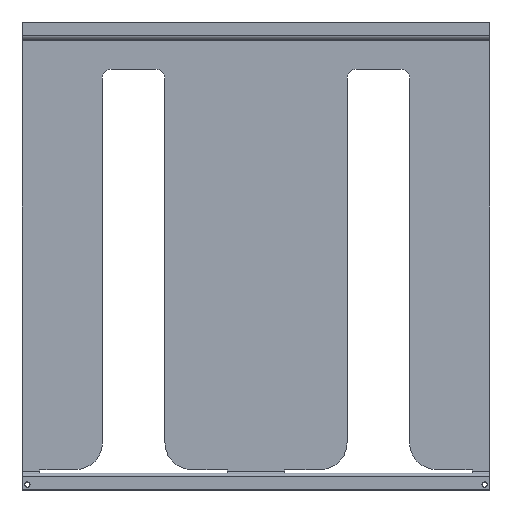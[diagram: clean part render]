
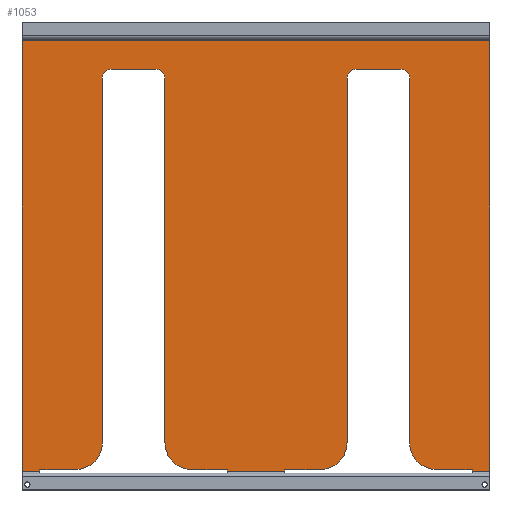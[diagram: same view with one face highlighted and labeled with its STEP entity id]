
A CAD part, top view. The second image highlights one B-rep face of the part: STEP entity #1053.
In plain terms, the highlighted planar face has unit normal (0, 0, 1).
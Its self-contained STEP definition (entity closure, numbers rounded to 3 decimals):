
#50=CIRCLE('',#1127,15.);
#51=CIRCLE('',#1128,15.);
#52=CIRCLE('',#1129,5.);
#53=CIRCLE('',#1130,5.);
#54=CIRCLE('',#1131,15.);
#55=CIRCLE('',#1132,15.);
#56=CIRCLE('',#1133,5.);
#57=CIRCLE('',#1134,5.);
#114=ORIENTED_EDGE('',*,*,#434,.T.);
#115=ORIENTED_EDGE('',*,*,#435,.T.);
#116=ORIENTED_EDGE('',*,*,#436,.T.);
#117=ORIENTED_EDGE('',*,*,#437,.T.);
#118=ORIENTED_EDGE('',*,*,#438,.F.);
#119=ORIENTED_EDGE('',*,*,#439,.F.);
#120=ORIENTED_EDGE('',*,*,#440,.F.);
#121=ORIENTED_EDGE('',*,*,#441,.F.);
#122=ORIENTED_EDGE('',*,*,#442,.F.);
#123=ORIENTED_EDGE('',*,*,#443,.T.);
#124=ORIENTED_EDGE('',*,*,#444,.T.);
#125=ORIENTED_EDGE('',*,*,#445,.T.);
#126=ORIENTED_EDGE('',*,*,#446,.T.);
#127=ORIENTED_EDGE('',*,*,#447,.T.);
#128=ORIENTED_EDGE('',*,*,#448,.T.);
#129=ORIENTED_EDGE('',*,*,#449,.T.);
#130=ORIENTED_EDGE('',*,*,#450,.T.);
#131=ORIENTED_EDGE('',*,*,#451,.T.);
#132=ORIENTED_EDGE('',*,*,#452,.T.);
#133=ORIENTED_EDGE('',*,*,#453,.T.);
#134=ORIENTED_EDGE('',*,*,#454,.F.);
#135=ORIENTED_EDGE('',*,*,#455,.T.);
#136=ORIENTED_EDGE('',*,*,#456,.T.);
#137=ORIENTED_EDGE('',*,*,#457,.T.);
#138=ORIENTED_EDGE('',*,*,#458,.T.);
#139=ORIENTED_EDGE('',*,*,#459,.T.);
#140=ORIENTED_EDGE('',*,*,#460,.T.);
#141=ORIENTED_EDGE('',*,*,#461,.T.);
#434=EDGE_CURVE('',#594,#595,#694,.T.);
#435=EDGE_CURVE('',#595,#596,#50,.F.);
#436=EDGE_CURVE('',#596,#597,#695,.T.);
#437=EDGE_CURVE('',#597,#598,#696,.T.);
#438=EDGE_CURVE('',#599,#598,#697,.T.);
#439=EDGE_CURVE('',#600,#599,#698,.T.);
#440=EDGE_CURVE('',#601,#600,#699,.T.);
#441=EDGE_CURVE('',#602,#601,#700,.T.);
#442=EDGE_CURVE('',#603,#602,#701,.F.);
#443=EDGE_CURVE('',#603,#604,#702,.T.);
#444=EDGE_CURVE('',#604,#605,#703,.T.);
#445=EDGE_CURVE('',#605,#606,#51,.F.);
#446=EDGE_CURVE('',#606,#607,#704,.T.);
#447=EDGE_CURVE('',#607,#608,#52,.T.);
#448=EDGE_CURVE('',#608,#609,#705,.T.);
#449=EDGE_CURVE('',#609,#610,#53,.T.);
#450=EDGE_CURVE('',#610,#611,#706,.T.);
#451=EDGE_CURVE('',#611,#612,#54,.F.);
#452=EDGE_CURVE('',#612,#613,#707,.T.);
#453=EDGE_CURVE('',#613,#614,#708,.T.);
#454=EDGE_CURVE('',#615,#614,#709,.F.);
#455=EDGE_CURVE('',#615,#616,#710,.T.);
#456=EDGE_CURVE('',#616,#617,#711,.T.);
#457=EDGE_CURVE('',#617,#618,#55,.F.);
#458=EDGE_CURVE('',#618,#619,#712,.T.);
#459=EDGE_CURVE('',#619,#620,#56,.T.);
#460=EDGE_CURVE('',#620,#621,#713,.T.);
#461=EDGE_CURVE('',#621,#594,#57,.T.);
#594=VERTEX_POINT('',#1583);
#595=VERTEX_POINT('',#1584);
#596=VERTEX_POINT('',#1586);
#597=VERTEX_POINT('',#1588);
#598=VERTEX_POINT('',#1590);
#599=VERTEX_POINT('',#1592);
#600=VERTEX_POINT('',#1594);
#601=VERTEX_POINT('',#1596);
#602=VERTEX_POINT('',#1598);
#603=VERTEX_POINT('',#1600);
#604=VERTEX_POINT('',#1602);
#605=VERTEX_POINT('',#1604);
#606=VERTEX_POINT('',#1606);
#607=VERTEX_POINT('',#1608);
#608=VERTEX_POINT('',#1610);
#609=VERTEX_POINT('',#1612);
#610=VERTEX_POINT('',#1614);
#611=VERTEX_POINT('',#1616);
#612=VERTEX_POINT('',#1618);
#613=VERTEX_POINT('',#1620);
#614=VERTEX_POINT('',#1622);
#615=VERTEX_POINT('',#1624);
#616=VERTEX_POINT('',#1626);
#617=VERTEX_POINT('',#1628);
#618=VERTEX_POINT('',#1630);
#619=VERTEX_POINT('',#1632);
#620=VERTEX_POINT('',#1634);
#621=VERTEX_POINT('',#1636);
#694=LINE('',#1582,#810);
#695=LINE('',#1587,#811);
#696=LINE('',#1589,#812);
#697=LINE('',#1591,#813);
#698=LINE('',#1593,#814);
#699=LINE('',#1595,#815);
#700=LINE('',#1597,#816);
#701=LINE('',#1599,#817);
#702=LINE('',#1601,#818);
#703=LINE('',#1603,#819);
#704=LINE('',#1607,#820);
#705=LINE('',#1611,#821);
#706=LINE('',#1615,#822);
#707=LINE('',#1619,#823);
#708=LINE('',#1621,#824);
#709=LINE('',#1623,#825);
#710=LINE('',#1625,#826);
#711=LINE('',#1627,#827);
#712=LINE('',#1631,#828);
#713=LINE('',#1635,#829);
#810=VECTOR('',#1255,1000.);
#811=VECTOR('',#1258,1000.);
#812=VECTOR('',#1259,1000.);
#813=VECTOR('',#1260,1000.);
#814=VECTOR('',#1261,1000.);
#815=VECTOR('',#1262,1000.);
#816=VECTOR('',#1263,1000.);
#817=VECTOR('',#1264,1000.);
#818=VECTOR('',#1265,1000.);
#819=VECTOR('',#1266,1000.);
#820=VECTOR('',#1269,1000.);
#821=VECTOR('',#1272,1000.);
#822=VECTOR('',#1275,1000.);
#823=VECTOR('',#1278,1000.);
#824=VECTOR('',#1279,1000.);
#825=VECTOR('',#1280,1000.);
#826=VECTOR('',#1281,1000.);
#827=VECTOR('',#1282,1000.);
#828=VECTOR('',#1285,1000.);
#829=VECTOR('',#1288,1000.);
#907=EDGE_LOOP('',(#114,#115,#116,#117,#118,#119,#120,#121,#122,#123,#124,
#125,#126,#127,#128,#129,#130,#131,#132,#133,#134,#135,#136,#137,#138,#139,
#140,#141));
#965=FACE_BOUND('',#907,.T.);
#1023=PLANE('',#1126);
#1053=ADVANCED_FACE('',(#965),#1023,.F.);
#1126=AXIS2_PLACEMENT_3D('',#1581,#1253,#1254);
#1127=AXIS2_PLACEMENT_3D('',#1585,#1256,#1257);
#1128=AXIS2_PLACEMENT_3D('',#1605,#1267,#1268);
#1129=AXIS2_PLACEMENT_3D('',#1609,#1270,#1271);
#1130=AXIS2_PLACEMENT_3D('',#1613,#1273,#1274);
#1131=AXIS2_PLACEMENT_3D('',#1617,#1276,#1277);
#1132=AXIS2_PLACEMENT_3D('',#1629,#1283,#1284);
#1133=AXIS2_PLACEMENT_3D('',#1633,#1286,#1287);
#1134=AXIS2_PLACEMENT_3D('',#1637,#1289,#1290);
#1253=DIRECTION('',(0.,0.,-1.));
#1254=DIRECTION('',(-1.,0.,0.));
#1255=DIRECTION('',(0.,-1.,0.));
#1256=DIRECTION('',(0.,0.,-1.));
#1257=DIRECTION('',(-1.,0.,0.));
#1258=DIRECTION('',(1.,0.,0.));
#1259=DIRECTION('',(0.,-1.,0.));
#1260=DIRECTION('',(-1.,0.,0.));
#1261=DIRECTION('',(0.,-1.,0.));
#1262=DIRECTION('',(1.,0.,0.));
#1263=DIRECTION('',(0.,1.,0.));
#1264=DIRECTION('',(1.,0.,0.));
#1265=DIRECTION('',(0.,1.,0.));
#1266=DIRECTION('',(1.,0.,0.));
#1267=DIRECTION('',(0.,0.,-1.));
#1268=DIRECTION('',(-1.,0.,0.));
#1269=DIRECTION('',(0.,1.,0.));
#1270=DIRECTION('',(0.,0.,-1.));
#1271=DIRECTION('',(-1.,0.,0.));
#1272=DIRECTION('',(1.,0.,0.));
#1273=DIRECTION('',(0.,0.,-1.));
#1274=DIRECTION('',(-1.,0.,0.));
#1275=DIRECTION('',(0.,-1.,0.));
#1276=DIRECTION('',(0.,0.,-1.));
#1277=DIRECTION('',(-1.,0.,0.));
#1278=DIRECTION('',(1.,0.,0.));
#1279=DIRECTION('',(0.,-1.,0.));
#1280=DIRECTION('',(1.,0.,0.));
#1281=DIRECTION('',(0.,1.,0.));
#1282=DIRECTION('',(1.,0.,0.));
#1283=DIRECTION('',(0.,0.,-1.));
#1284=DIRECTION('',(-1.,0.,0.));
#1285=DIRECTION('',(0.,1.,0.));
#1286=DIRECTION('',(0.,0.,-1.));
#1287=DIRECTION('',(-1.,0.,0.));
#1288=DIRECTION('',(1.,0.,0.));
#1289=DIRECTION('',(0.,0.,-1.));
#1290=DIRECTION('',(-1.,0.,0.));
#1581=CARTESIAN_POINT('',(0.,0.,1.));
#1582=CARTESIAN_POINT('',(86.,0.,1.));
#1583=CARTESIAN_POINT('',(86.,99.,1.));
#1584=CARTESIAN_POINT('',(86.,-105.,1.));
#1585=CARTESIAN_POINT('',(101.,-105.,1.));
#1586=CARTESIAN_POINT('',(101.,-120.,1.));
#1587=CARTESIAN_POINT('',(16.,-120.,1.));
#1588=CARTESIAN_POINT('',(121.,-120.,1.));
#1589=CARTESIAN_POINT('',(121.,-120.,1.));
#1590=CARTESIAN_POINT('',(121.,-121.,1.));
#1591=CARTESIAN_POINT('',(131.,-121.,1.));
#1592=CARTESIAN_POINT('',(131.,-121.,1.));
#1593=CARTESIAN_POINT('',(131.,121.,1.));
#1594=CARTESIAN_POINT('',(131.,120.,1.));
#1595=CARTESIAN_POINT('',(-131.,120.,1.));
#1596=CARTESIAN_POINT('',(-131.,120.,1.));
#1597=CARTESIAN_POINT('',(-131.,-121.,1.));
#1598=CARTESIAN_POINT('',(-131.,-121.,1.));
#1599=CARTESIAN_POINT('',(-131.,-121.,1.));
#1600=CARTESIAN_POINT('',(-121.,-121.,1.));
#1601=CARTESIAN_POINT('',(-121.,-136.182,1.));
#1602=CARTESIAN_POINT('',(-121.,-120.,1.));
#1603=CARTESIAN_POINT('',(-121.,-120.,1.));
#1604=CARTESIAN_POINT('',(-101.,-120.,1.));
#1605=CARTESIAN_POINT('',(-101.,-105.,1.));
#1606=CARTESIAN_POINT('',(-86.,-105.,1.));
#1607=CARTESIAN_POINT('',(-86.,0.,1.));
#1608=CARTESIAN_POINT('',(-86.,99.,1.));
#1609=CARTESIAN_POINT('',(-81.,99.,1.));
#1610=CARTESIAN_POINT('',(-81.,104.,1.));
#1611=CARTESIAN_POINT('',(0.,104.,1.));
#1612=CARTESIAN_POINT('',(-56.,104.,1.));
#1613=CARTESIAN_POINT('',(-56.,99.,1.));
#1614=CARTESIAN_POINT('',(-51.,99.,1.));
#1615=CARTESIAN_POINT('',(-51.,0.,1.));
#1616=CARTESIAN_POINT('',(-51.,-105.,1.));
#1617=CARTESIAN_POINT('',(-36.,-105.,1.));
#1618=CARTESIAN_POINT('',(-36.,-120.,1.));
#1619=CARTESIAN_POINT('',(-121.,-120.,1.));
#1620=CARTESIAN_POINT('',(-16.,-120.,1.));
#1621=CARTESIAN_POINT('',(-16.,-120.,1.));
#1622=CARTESIAN_POINT('',(-16.,-121.,1.));
#1623=CARTESIAN_POINT('',(-51.,-121.,1.));
#1624=CARTESIAN_POINT('',(16.,-121.,1.));
#1625=CARTESIAN_POINT('',(16.,-136.182,1.));
#1626=CARTESIAN_POINT('',(16.,-120.,1.));
#1627=CARTESIAN_POINT('',(16.,-120.,1.));
#1628=CARTESIAN_POINT('',(36.,-120.,1.));
#1629=CARTESIAN_POINT('',(36.,-105.,1.));
#1630=CARTESIAN_POINT('',(51.,-105.,1.));
#1631=CARTESIAN_POINT('',(51.,0.,1.));
#1632=CARTESIAN_POINT('',(51.,99.,1.));
#1633=CARTESIAN_POINT('',(56.,99.,1.));
#1634=CARTESIAN_POINT('',(56.,104.,1.));
#1635=CARTESIAN_POINT('',(0.,104.,1.));
#1636=CARTESIAN_POINT('',(81.,104.,1.));
#1637=CARTESIAN_POINT('',(81.,99.,1.));
